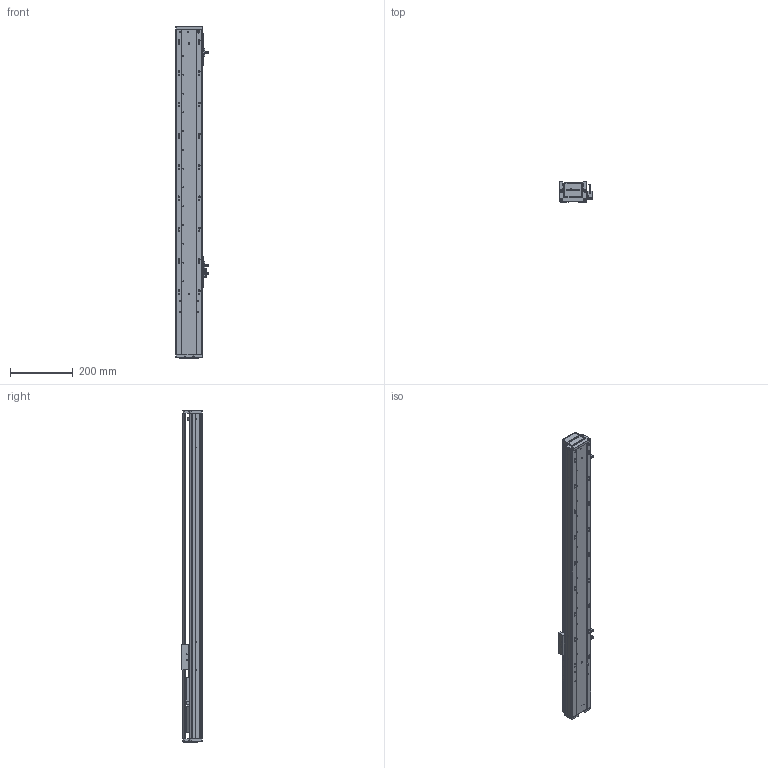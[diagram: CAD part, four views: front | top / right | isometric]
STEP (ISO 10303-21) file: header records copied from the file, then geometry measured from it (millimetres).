
FILE_DESCRIPTION (( 'STEP AP203' ), '1' );
FILE_NAME ('RY80-L1620-300-IK.SLDASM_700.step', '2021-02-22T05:29:16', ( '盈信电脑' ), ( '东莞市道滘镇水果街19号' ), 'SwSTEP 2.0', 'SolidWorks 2012', '' );
FILE_SCHEMA (( 'CONFIG_CONTROL_DESIGN' ));
Length unit declared in the file: millimetre
Products named in the file (14): RY80俋离覜茼え; 覜茼ん672; 侂狟100W; 滅袉蝶18-10; 672嫖萇羲壽假蚾釱; RY80萇儂傷盓傅釱; RY80綴裔啣; RY80-300倰第菁釱-IK_700; RY80-300倰第奻裔啣-IK_700; RY80臏賑輸; 滅袉蝶18-24; RY80-L1620-300-IK.SLDASM_700; RY80囀离萇儂啣; RY80囀离ヶ啣
Assembly tree (16 placements, depth 2):
  RY80-L1620-300-IK.SLDASM_700
    RY80-300倰第菁釱-IK_700
    RY80臏賑輸
    RY80-300倰第奻裔啣-IK_700
    RY80萇儂傷盓傅釱
    RY80綴裔啣
    滅袉蝶18-10
    672嫖萇羲壽假蚾釱  x2
    覜茼ん672  x3
    RY80俋离覜茼え
    侂狟100W
    RY80囀离萇儂啣
    RY80囀离ヶ啣
    滅袉蝶18-24
Bounding box: 103.7 x 65 x 1061 mm (x, y, z)
Volume: 1788817.6 mm3; surface area: 752705 mm2
Topology: 16 solids, 16 shells, 2163 faces, 6026 edges, 3931 vertices
Faces by surface type: plane 1290, cylinder 733, cone 96, bspline 44
Entity records: 69327 total; most frequent: CARTESIAN_POINT 18021, ORIENTED_EDGE 10772, DIRECTION 9633, EDGE_CURVE 5386, VERTEX_POINT 3547, LINE 3511, VECTOR 3511, AXIS2_PLACEMENT_3D 3061
